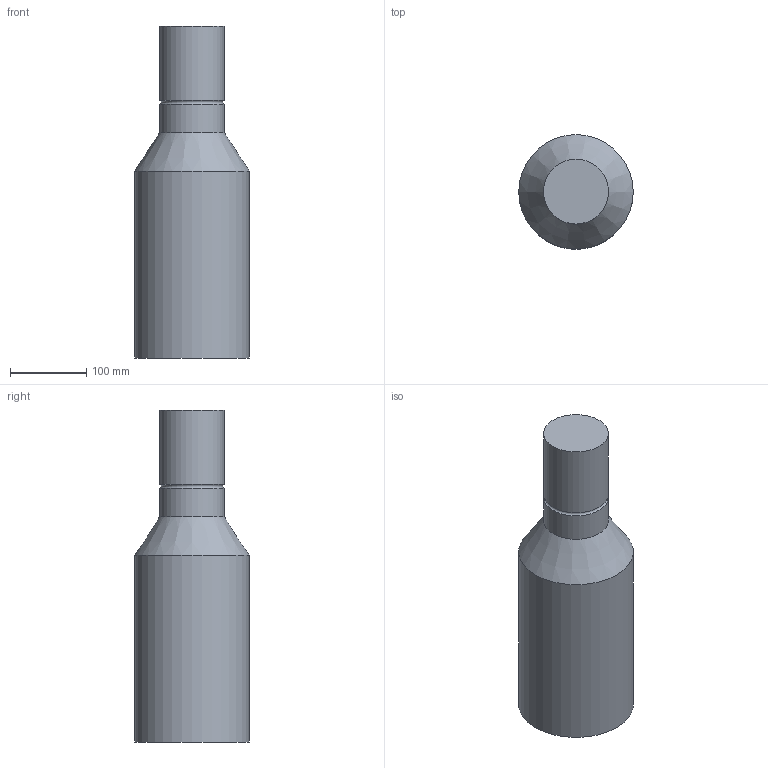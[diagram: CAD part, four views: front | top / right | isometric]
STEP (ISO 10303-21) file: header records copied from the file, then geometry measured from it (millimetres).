
FILE_DESCRIPTION( ( 'Unknown' ), '1' );
FILE_NAME( 'C:/Users/work/Documents/Solid Edge/heavy_gas_cherenkov/step/pmt.step', 'Unknown', ( 'Unknown' ), ( 'Unknown' ), 'PSStep 10.1', 'Unknown', ' ' );
FILE_SCHEMA( ( 'AUTOMOTIVE_DESIGN { 1 0 10303 214 1 1 1 1 }' ) );
Length unit declared in the file: millimetre
Products named in the file (1): 1
Bounding box: 150 x 150 x 435 mm (x, y, z)
Volume: 5677377.9 mm3; surface area: 198881.3 mm2
Topology: 1 solids, 1 shells, 7 faces, 11 edges, 6 vertices
Faces by surface type: cylinder 3, plane 2, torus 1, cone 1
Full cylindrical faces by diameter (mm): 85 x2, 150 x1
Entity records: 206 total; most frequent: DIRECTION 28, CARTESIAN_POINT 20, AXIS2_PLACEMENT_3D 14, EDGE_LOOP 12, ORIENTED_EDGE 12, FACE_OUTER_BOUND 11, STYLED_ITEM 7, PRESENTATION_STYLE_ASSIGNMENT 7
